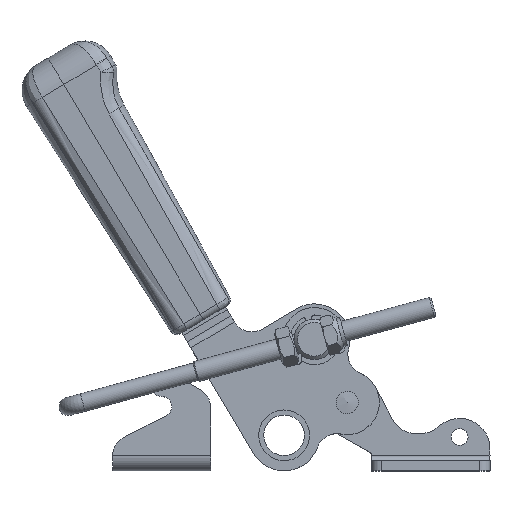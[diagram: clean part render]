
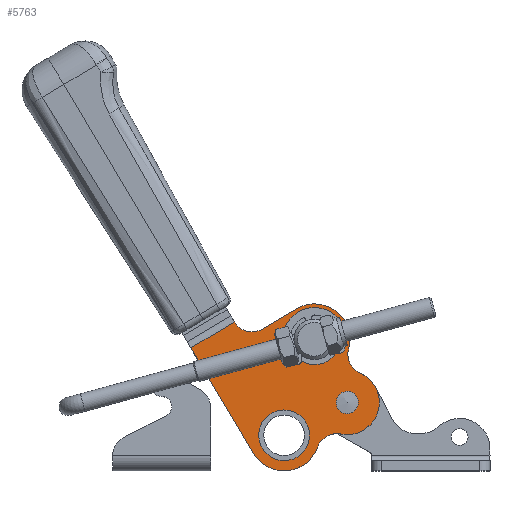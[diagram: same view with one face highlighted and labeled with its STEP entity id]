
A CAD part, top view. The second image highlights one B-rep face of the part: STEP entity #5763.
In plain terms, the highlighted planar face has unit normal (0, 0, 1).
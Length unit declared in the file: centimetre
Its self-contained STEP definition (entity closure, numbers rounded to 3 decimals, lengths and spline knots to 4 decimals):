
#372=LINE($,#9096,#728);
#380=LINE($,#9154,#736);
#384=LINE($,#9163,#740);
#728=VECTOR($,#7355,1.);
#736=VECTOR($,#7421,1.);
#740=VECTOR($,#7433,1.);
#973=PLANE($,#6309);
#1131=FACE_BOUND($,#1736,.T.);
#1132=FACE_BOUND($,#1737,.T.);
#1133=FACE_BOUND($,#1738,.T.);
#1134=FACE_BOUND($,#1739,.T.);
#1736=EDGE_LOOP($,(#4406));
#1737=EDGE_LOOP($,(#4407));
#1738=EDGE_LOOP($,(#4408));
#1739=EDGE_LOOP($,(#4409,#4410,#4411,#4412,#4413,#4414,#4415,#4416,#4417));
#2200=CIRCLE($,#6282,0.75);
#2202=CIRCLE($,#6285,0.75);
#2204=CIRCLE($,#6288,0.3);
#2206=CIRCLE($,#6291,1.05);
#2208=CIRCLE($,#6294,0.6);
#2210=CIRCLE($,#6297,0.95);
#2212=CIRCLE($,#6300,0.6);
#2214=CIRCLE($,#6303,1.05);
#2216=CIRCLE($,#6307,0.6);
#2623=VERTEX_POINT($,#9093);
#2624=VERTEX_POINT($,#9095);
#2627=VERTEX_POINT($,#9105);
#2629=VERTEX_POINT($,#9110);
#2631=VERTEX_POINT($,#9115);
#2633=VERTEX_POINT($,#9120);
#2634=VERTEX_POINT($,#9121);
#2637=VERTEX_POINT($,#9129);
#2639=VERTEX_POINT($,#9135);
#2641=VERTEX_POINT($,#9141);
#2643=VERTEX_POINT($,#9147);
#2645=VERTEX_POINT($,#9153);
#3278=EDGE_CURVE($,#2624,#2623,#372,.T.);
#3283=EDGE_CURVE($,#2627,#2627,#2200,.T.);
#3285=EDGE_CURVE($,#2629,#2629,#2202,.T.);
#3287=EDGE_CURVE($,#2631,#2631,#2204,.T.);
#3289=EDGE_CURVE($,#2633,#2634,#2206,.T.);
#3293=EDGE_CURVE($,#2634,#2637,#2208,.T.);
#3296=EDGE_CURVE($,#2637,#2639,#2210,.T.);
#3299=EDGE_CURVE($,#2639,#2641,#2212,.T.);
#3302=EDGE_CURVE($,#2641,#2643,#2214,.T.);
#3305=EDGE_CURVE($,#2643,#2645,#380,.T.);
#3308=EDGE_CURVE($,#2645,#2624,#2216,.T.);
#3311=EDGE_CURVE($,#2623,#2633,#384,.T.);
#4406=ORIENTED_EDGE($,*,*,#3283,.F.);
#4407=ORIENTED_EDGE($,*,*,#3285,.F.);
#4408=ORIENTED_EDGE($,*,*,#3287,.F.);
#4409=ORIENTED_EDGE($,*,*,#3289,.T.);
#4410=ORIENTED_EDGE($,*,*,#3293,.T.);
#4411=ORIENTED_EDGE($,*,*,#3296,.T.);
#4412=ORIENTED_EDGE($,*,*,#3299,.T.);
#4413=ORIENTED_EDGE($,*,*,#3302,.T.);
#4414=ORIENTED_EDGE($,*,*,#3305,.T.);
#4415=ORIENTED_EDGE($,*,*,#3308,.T.);
#4416=ORIENTED_EDGE($,*,*,#3278,.T.);
#4417=ORIENTED_EDGE($,*,*,#3311,.T.);
#5763=ADVANCED_FACE($,(#1131,#1132,#1133,#1134),#973,.T.);
#6282=AXIS2_PLACEMENT_3D($,#9106,#7367,#7368);
#6285=AXIS2_PLACEMENT_3D($,#9111,#7373,#7374);
#6288=AXIS2_PLACEMENT_3D($,#9116,#7379,#7380);
#6291=AXIS2_PLACEMENT_3D($,#9122,#7385,#7386);
#6294=AXIS2_PLACEMENT_3D($,#9130,#7393,#7394);
#6297=AXIS2_PLACEMENT_3D($,#9136,#7400,#7401);
#6300=AXIS2_PLACEMENT_3D($,#9142,#7407,#7408);
#6303=AXIS2_PLACEMENT_3D($,#9148,#7414,#7415);
#6307=AXIS2_PLACEMENT_3D($,#9159,#7426,#7427);
#6309=AXIS2_PLACEMENT_3D($,#9162,#7431,#7432);
#7355=DIRECTION($,(-0.86,-0.511,0.));
#7367=DIRECTION('center_axis',(0.,0.,
1.));
#7368=DIRECTION('ref_axis',(0.511,-0.86,0.));
#7373=DIRECTION('center_axis',(0.,0.,
1.));
#7374=DIRECTION('ref_axis',(0.511,-0.86,0.));
#7379=DIRECTION('center_axis',(0.,0.,
1.));
#7380=DIRECTION('ref_axis',(0.511,-0.86,0.));
#7385=DIRECTION('center_axis',(0.,0.,
1.));
#7386=DIRECTION('ref_axis',(-0.86,-0.511,0.));
#7393=DIRECTION('center_axis',(0.,0.,
-1.));
#7394=DIRECTION('ref_axis',(-0.2,-0.98,0.));
#7400=DIRECTION('center_axis',(0.,0.,
1.));
#7401=DIRECTION('ref_axis',(-0.2,-0.98,0.));
#7407=DIRECTION('center_axis',(0.,0.,
-1.));
#7408=DIRECTION('ref_axis',(0.963,-0.27,0.));
#7414=DIRECTION('center_axis',(0.,0.,
1.));
#7415=DIRECTION('ref_axis',(0.963,-0.27,0.));
#7421=DIRECTION($,(-0.86,-0.511,0.));
#7426=DIRECTION('center_axis',(0.,0.,
-1.));
#7427=DIRECTION('ref_axis',(0.86,0.511,0.));
#7431=DIRECTION('center_axis',(0.,0.,
1.));
#7432=DIRECTION('ref_axis',(-0.511,0.86,0.));
#7433=DIRECTION($,(0.511,-0.86,0.));
#9093=CARTESIAN_POINT('',(-4.624,1.6137,0.6));
#9095=CARTESIAN_POINT('',(-3.3346,2.3802,0.6));
#9096=CARTESIAN_POINT($,(-3.3346,2.3802,0.6));
#9105=CARTESIAN_POINT('',(-1.3533,2.5111,0.6));
#9106=CARTESIAN_POINT('Origin',(-0.97,1.8664,0.6));
#9110=CARTESIAN_POINT('',(-2.2497,-0.3253,0.6));
#9111=CARTESIAN_POINT('Origin',(-1.8664,-0.97,0.6));
#9115=CARTESIAN_POINT('',(-0.1533,0.2579,0.6));
#9116=CARTESIAN_POINT('Origin',(0.,0.,
0.6));
#9120=CARTESIAN_POINT('',(-2.769,-1.5066,0.6));
#9121=CARTESIAN_POINT('',(-0.8762,-1.3191,0.6));
#9122=CARTESIAN_POINT('Origin',(-1.8664,-0.97,0.6));
#9129=CARTESIAN_POINT('',(-0.1902,-0.9308,0.6));
#9130=CARTESIAN_POINT('Origin',(-0.3103,-1.5186,0.6));
#9135=CARTESIAN_POINT('',(0.3793,0.871,0.6));
#9136=CARTESIAN_POINT('Origin',(0.,0.,
0.6));
#9141=CARTESIAN_POINT('',(0.041,1.5831,0.6));
#9142=CARTESIAN_POINT('Origin',(0.6188,1.4211,0.6));
#9147=CARTESIAN_POINT('',(-1.5066,2.769,0.6));
#9148=CARTESIAN_POINT('Origin',(-0.97,1.8664,0.6));
#9153=CARTESIAN_POINT('',(-2.5123,2.1711,0.6));
#9154=CARTESIAN_POINT($,(-1.5066,2.769,0.6));
#9159=CARTESIAN_POINT('Origin',(-2.8189,2.6868,0.6));
#9162=CARTESIAN_POINT('Origin',(-1.7339,0.5868,0.6));
#9163=CARTESIAN_POINT($,(-4.624,1.6137,0.6));
